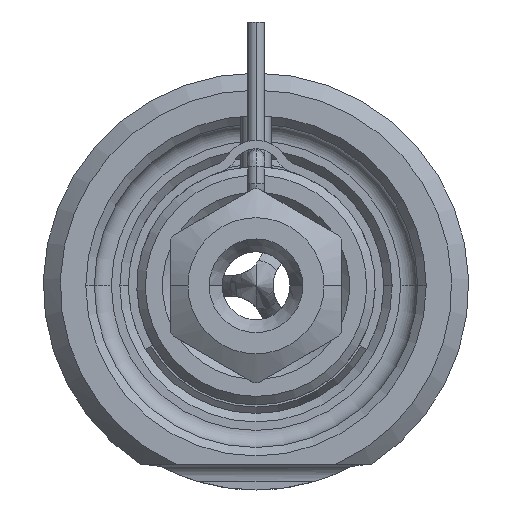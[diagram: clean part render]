
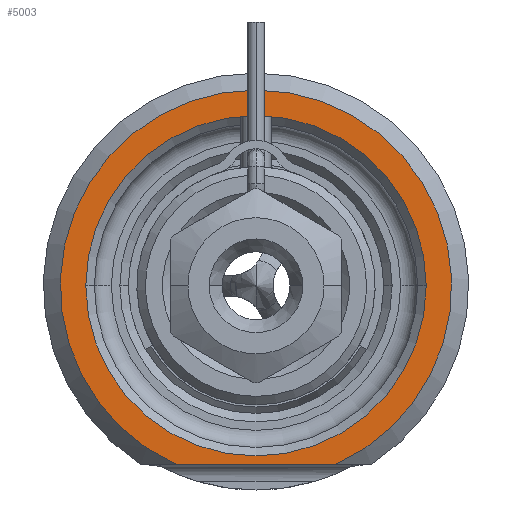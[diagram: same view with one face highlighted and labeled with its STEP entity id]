
A CAD part, front view. The second image highlights one B-rep face of the part: STEP entity #5003.
In plain terms, the highlighted planar face has unit normal (0, -1, 0).
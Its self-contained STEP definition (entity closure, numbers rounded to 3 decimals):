
#1220=CARTESIAN_POINT('',(0.,0.,0.));
#1221=DIRECTION('',(0.,-1.,0.));
#1222=DIRECTION('',(0.408,0.,-0.913));
#1223=AXIS2_PLACEMENT_3D('',#1220,#1221,#1222);
#1244=DIRECTION('',(1.,0.,0.));
#1245=VECTOR('',#1244,9.381);
#1246=CARTESIAN_POINT('',(-4.69,0.,-10.5));
#1247=LINE('',#1246,#1245);
#1248=CARTESIAN_POINT('',(0.,0.,0.));
#1249=DIRECTION('',(0.,1.,0.));
#1250=DIRECTION('',(-1.,0.,0.));
#1251=AXIS2_PLACEMENT_3D('',#1248,#1249,#1250);
#1253=CARTESIAN_POINT('',(0.,0.,0.));
#1254=DIRECTION('',(0.,1.,0.));
#1255=DIRECTION('',(1.,0.,0.));
#1256=AXIS2_PLACEMENT_3D('',#1253,#1254,#1255);
#3208=CARTESIAN_POINT('',(-10.,0.,0.));
#3209=CARTESIAN_POINT('',(10.,0.,0.));
#3210=VERTEX_POINT('',#3208);
#3211=VERTEX_POINT('',#3209);
#3252=CARTESIAN_POINT('',(-4.69,0.,-10.5));
#3253=CARTESIAN_POINT('',(4.69,0.,-10.5));
#3254=VERTEX_POINT('',#3252);
#3255=VERTEX_POINT('',#3253);
#4988=CARTESIAN_POINT('',(0.,0.,0.));
#4989=DIRECTION('',(0.,-1.,0.));
#4990=DIRECTION('',(1.,0.,0.));
#4991=AXIS2_PLACEMENT_3D('',#4988,#4989,#4990);
#4992=PLANE('',#4991);
#4993=ORIENTED_EDGE('',*,*,#4923,.F.);
#4994=ORIENTED_EDGE('',*,*,#4980,.F.);
#4995=EDGE_LOOP('',(#4993,#4994));
#4996=FACE_OUTER_BOUND('',#4995,.F.);
#4998=ORIENTED_EDGE('',*,*,#4997,.F.);
#5000=ORIENTED_EDGE('',*,*,#4999,.F.);
#5001=EDGE_LOOP('',(#4998,#5000));
#5002=FACE_BOUND('',#5001,.F.);
#5003=ADVANCED_FACE('',(#4996,#5002),#4992,.T.);
#1224=CIRCLE('',#1223,11.5);
#1252=CIRCLE('',#1251,10.);
#1257=CIRCLE('',#1256,10.);
#4923=EDGE_CURVE('',#3254,#3255,#1247,.T.);
#4980=EDGE_CURVE('',#3255,#3254,#1224,.T.);
#4997=EDGE_CURVE('',#3210,#3211,#1252,.T.);
#4999=EDGE_CURVE('',#3211,#3210,#1257,.T.);
